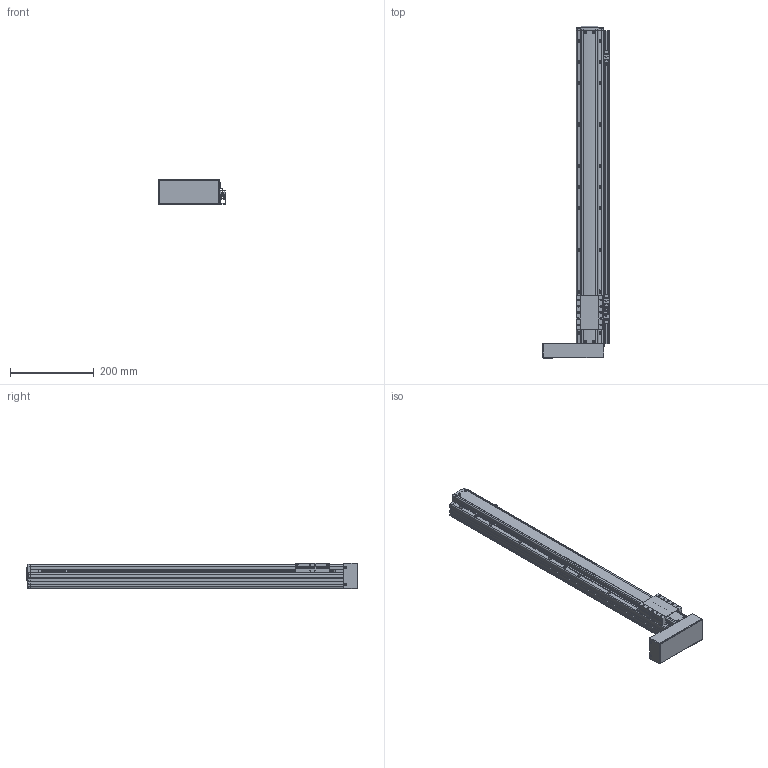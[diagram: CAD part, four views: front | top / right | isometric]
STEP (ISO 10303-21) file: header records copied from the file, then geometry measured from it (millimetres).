
FILE_DESCRIPTION(('STEP AP214'),'1');
FILE_NAME('Z:/Web/3D/PSA65/STP/PSA65-600 (3D)/PSA65ㅁㅁ-600PL+3SR.stp','2014-06-25T05:08:26',(' '),(' '),'Spatial InterOp 3D',' ',' ');
FILE_SCHEMA(('automotive_design'));
Length unit declared in the file: millimetre
Products named in the file (67): SLIDE; RRCV-PA060; 1; 2; 3; 4; 5; 6; 7; 8; 9; 10; 11; 12; 13; 14; 15; 16; 17; 18; 19; 20; 21; 22; 23; 24; 25; 26; 27; 28; 29; 30; 31; 스크루 : Round - M3.0 x 8.0; RN8 x 0.75; SHAFT-SAN65; BASE; 스크루 : Round - M3.0 x 6.0; BTCV-SAN65; BHCS M3 X 6L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
Bounding box: 162.06 x 794.8 x 62 mm (x, y, z)
Volume: 2692271.3 mm3; surface area: 429525.4 mm2
Topology: 67 solids, 67 shells, 2300 faces, 6067 edges, 3892 vertices
Faces by surface type: plane 1395, cylinder 613, cone 207, sphere 50, bspline 19, torus 16
Entity records: 91038 total; most frequent: CARTESIAN_POINT 13927, DIRECTION 12234, ORIENTED_EDGE 11866, EDGE_CURVE 5933, LINE 4156, VECTOR 4156, AXIS2_PLACEMENT_3D 4039, VERTEX_POINT 3892
